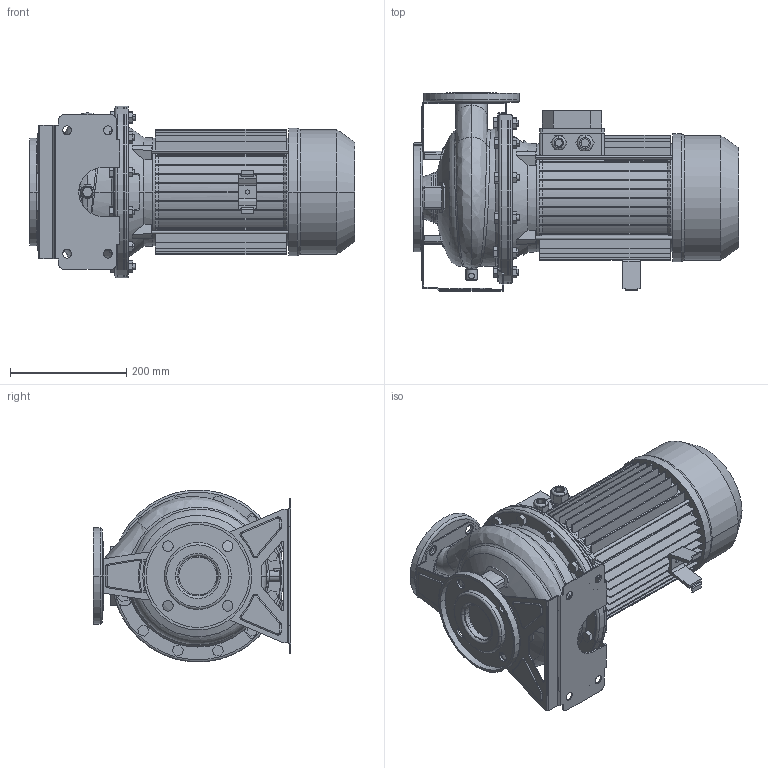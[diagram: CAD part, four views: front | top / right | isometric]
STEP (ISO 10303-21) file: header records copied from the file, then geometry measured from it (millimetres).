
FILE_DESCRIPTION((''),'2;1');
FILE_NAME('3M_50-160_7_5_IE3_ASM','2014-12-12T',('Rosa'),('"Ebara Pumps Europe +39.444.706811"'),'PRO/ENGINEER BY PARAMETRIC TECHNOLOGY CORPORATION, 2009360','PRO/ENGINEER BY PARAMETRIC TECHNOLOGY CORPORATION, 2009360','');
FILE_SCHEMA(('AUTOMOTIVE_DESIGN { 1 0 10303 214 1 1 1 1 }'));
Length unit declared in the file: millimetre
Products named in the file (11): CORPO_50-160_AF0; ASP_50-160; FLANGIA_DIN_65; MAND_50-160; FLANGIA_DIN_50; BASE_3M_50-160; CORPO_SALDATO_50-160_ASM; SUPPORTO_3M_230_112; MEC_112X200_IE3; SOSTEGNO_72008; 3M_50-160_7_5_IE3_ASM
Assembly tree (10 placements, depth 3):
  3M_50-160_7_5_IE3_ASM
    CORPO_SALDATO_50-160_ASM
      CORPO_50-160_AF0
      ASP_50-160
      FLANGIA_DIN_65
      MAND_50-160
      FLANGIA_DIN_50
      BASE_3M_50-160
    SUPPORTO_3M_230_112
    MEC_112X200_IE3
    SOSTEGNO_72008
Bounding box: 559 x 340 x 295.13 mm (x, y, z)
Volume: 13423415.1 mm3; surface area: 1539466.9 mm2
Topology: 12 solids, 12 shells, 1120 faces, 2841 edges, 1816 vertices
Faces by surface type: plane 613, cylinder 310, cone 96, torus 62, bspline 33, sphere 6
Entity records: 49192 total; most frequent: CARTESIAN_POINT 10058, DIRECTION 5798, ORIENTED_EDGE 5682, PRESENTATION_STYLE_ASSIGNMENT 2853, STYLED_ITEM 2853, CURVE_STYLE 2841, EDGE_CURVE 2841, AXIS2_PLACEMENT_3D 2091
